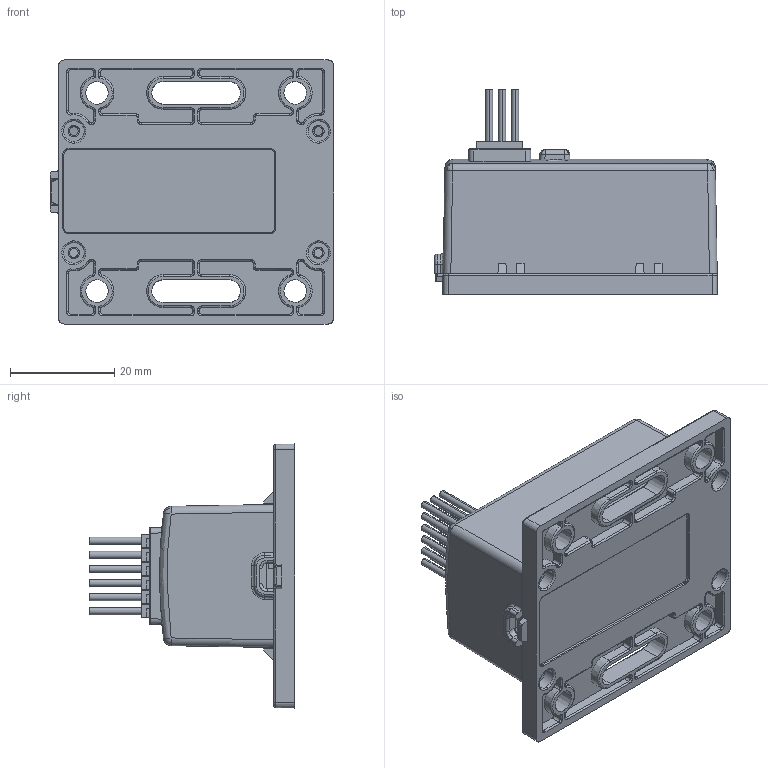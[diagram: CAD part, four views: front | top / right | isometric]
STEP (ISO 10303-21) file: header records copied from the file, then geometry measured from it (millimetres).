
FILE_DESCRIPTION (( 'STEP AP203' ), '1' );
FILE_NAME ('SIGNAL-SPLITTER-ASSY.STEP', '2007-10-25T22:38:22', ( 'Innovation First, Inc.' ), ( 'Innovation First, Inc.' ), 'SwSTEP 2.0', 'SolidWorks 2006303', '' );
FILE_SCHEMA (( 'CONFIG_CONTROL_DESIGN' ));
Products named in the file (7): SIGNAL-SPLITTER-LED; SIGNAL-SPLITTER-POWER; SIGNAL-SPLITTER-SWITCH; PWM-TIP; SIGNAL-SPLITTER-TOP; SIGNAL-SPLITTER-BOTTOM; SIGNAL-SPLITTER-ASSY
Assembly tree (11 placements, depth 2):
  SIGNAL-SPLITTER-ASSY
    PWM-TIP  x6
    SIGNAL-SPLITTER-LED
    SIGNAL-SPLITTER-BOTTOM
    SIGNAL-SPLITTER-SWITCH
    SIGNAL-SPLITTER-POWER
    SIGNAL-SPLITTER-TOP
Bounding box: 54.42 x 39.5 x 50.74 mm (x, y, z)
Volume: 19306.8 mm3; surface area: 27062.7 mm2
Topology: 11 solids, 11 shells, 1406 faces, 3535 edges, 2196 vertices
Faces by surface type: plane 783, cylinder 356, bspline 211, cone 54, torus 2
Entity records: 47170 total; most frequent: CARTESIAN_POINT 19312, ORIENTED_EDGE 6208, DIRECTION 4676, EDGE_CURVE 3104, VERTEX_POINT 1946, LINE 1772, VECTOR 1772, AXIS2_PLACEMENT_3D 1452
